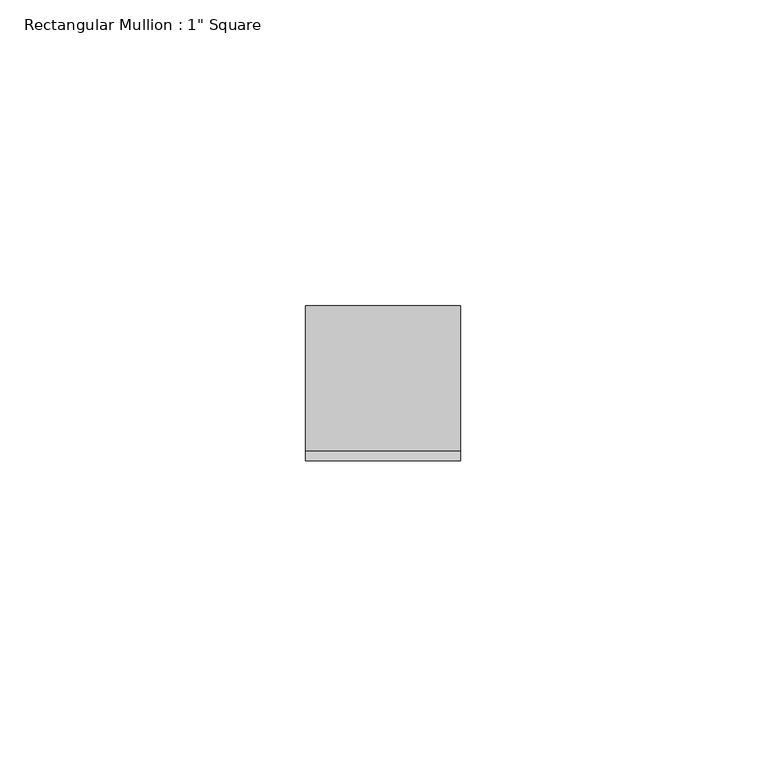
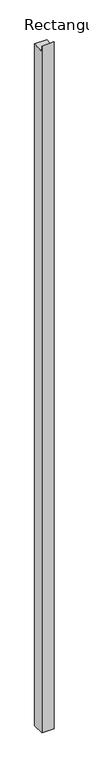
"""IFC4 building model written with IfcOpenShell, lengths in millimetres: member geometry."""

from ifc_helpers import new_model, si_unit, frame, origin, place, context, project, spatial, polyline, outline, extrude, source, transform, mapped, element, save


def member_7fb477b2(model_context):
    return source(origin(), model_context, "Body", "SweptSolid", [
        extrude(outline(polyline([(-12.7, 11.9031249), (-11.0128906, -1.4878906), (12.7, 1.4996528), (12.7, -1485.900006), (-12.7, -1485.900006), (-12.7, 11.9031249)])), frame((-25.4, 0.0, 0.0), z_axis=(1.0, 0.0, 0.0), x_axis=(0.0, 1.0, 0.0)), (0.0, 0.0, 1.0), 25.4),
    ])


if __name__ == "__main__":
    model = new_model("IFC4")
    model_context = context("Model", 3, world=origin())
    ifc_project = project(units=[si_unit("LENGTHUNIT", "METRE", prefix="MILLI")], contexts=[model_context])
    site = spatial("IfcSite", under=ifc_project)
    building = spatial("IfcBuilding", under=site)
    placement = place(None, origin())
    member_shape = member_7fb477b2(model_context)
    element("IfcMember", 1, ObjectType="Rectangular Mullion : 1\" Square", at=placement, inside=building, context=model_context, shape_type="MappedRepresentation", body=[
        mapped(member_shape, transform((0.0, 0.0, 0.0), x_axis=(1.0, 0.0, 0.0), y_axis=(0.0, 1.0, 0.0), z_axis=(0.0, 0.0, 1.0))),
    ])
    save(model, "model.ifc")
